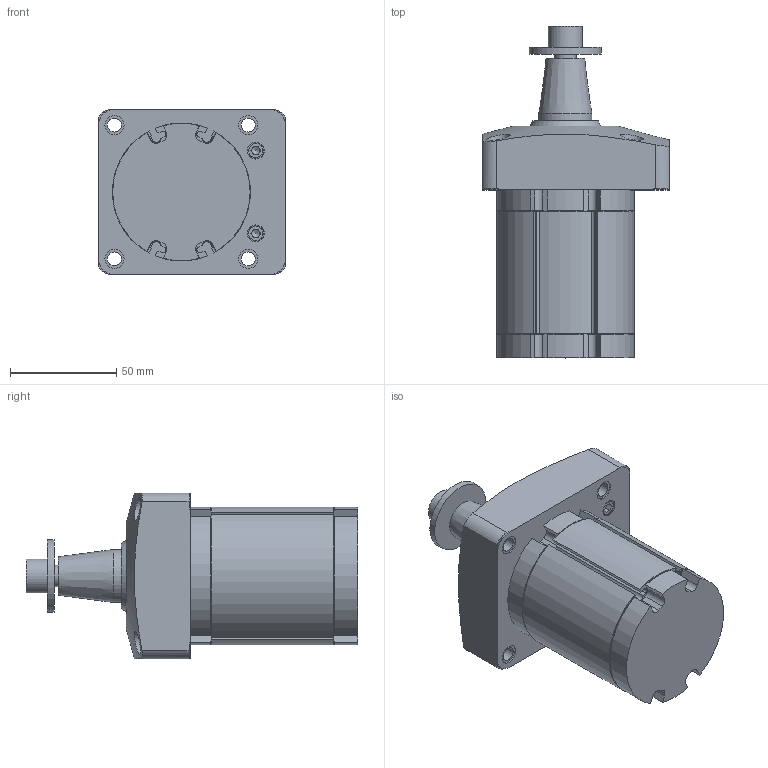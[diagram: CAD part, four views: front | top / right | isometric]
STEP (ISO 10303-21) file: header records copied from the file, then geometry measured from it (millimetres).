
FILE_DESCRIPTION( ( '' ), '1' );
FILE_NAME( 'W:/Catalogue/JSM/jsm40-20/jsm40-20.stp', '2008-05-26T02:56:12', ( '機械事業部産業機器グループ' ), ( '豊和工業株式会社' ), 'XStep 1.0', ' ', ' ' );
FILE_SCHEMA( ( 'CONFIG_CONTROL_DESIGN' ) );
Length unit declared in the file: millimetre
Products named in the file (7): Assem1; 1; 2; 3; 4; 5; 6
Bounding box: 88 x 156.2 x 78 mm (x, y, z)
Volume: 854296 mm3; surface area: 157880.2 mm2
Topology: 14 solids, 16 shells, 586 faces, 1480 edges, 970 vertices
Faces by surface type: plane 356, cylinder 184, cone 44, torus 2
Full cylindrical faces by diameter (mm): 6.6 x8, 8 x4, 9 x8, 10 x4, 10.5 x2, 11 x12, 16 x2, 25 x4, 25.15 x2, 27 x2, 32 x2, 34 x2, 37 x4, 40 x4
Entity records: 8778 total; most frequent: CARTESIAN_POINT 1937, DIRECTION 1395, ORIENTED_EDGE 1248, EDGE_CURVE 624, AXIS2_PLACEMENT_3D 505, VERTEX_POINT 438, LINE 385, VECTOR 385
